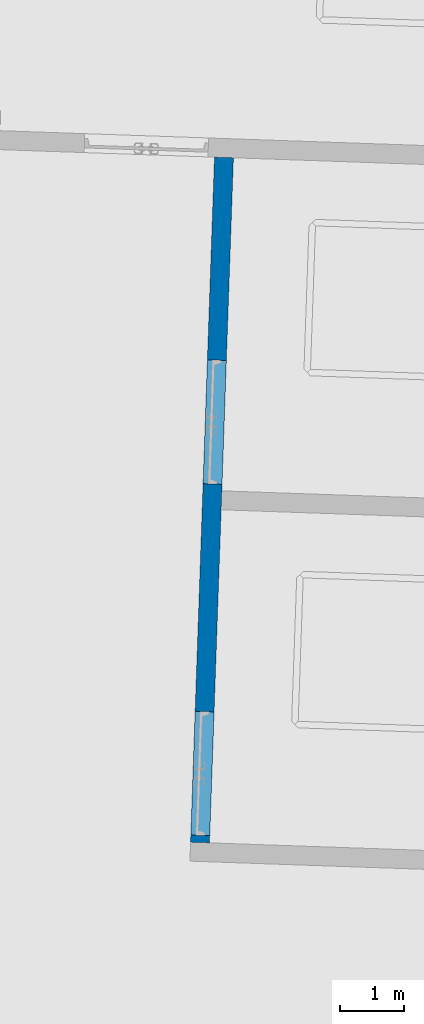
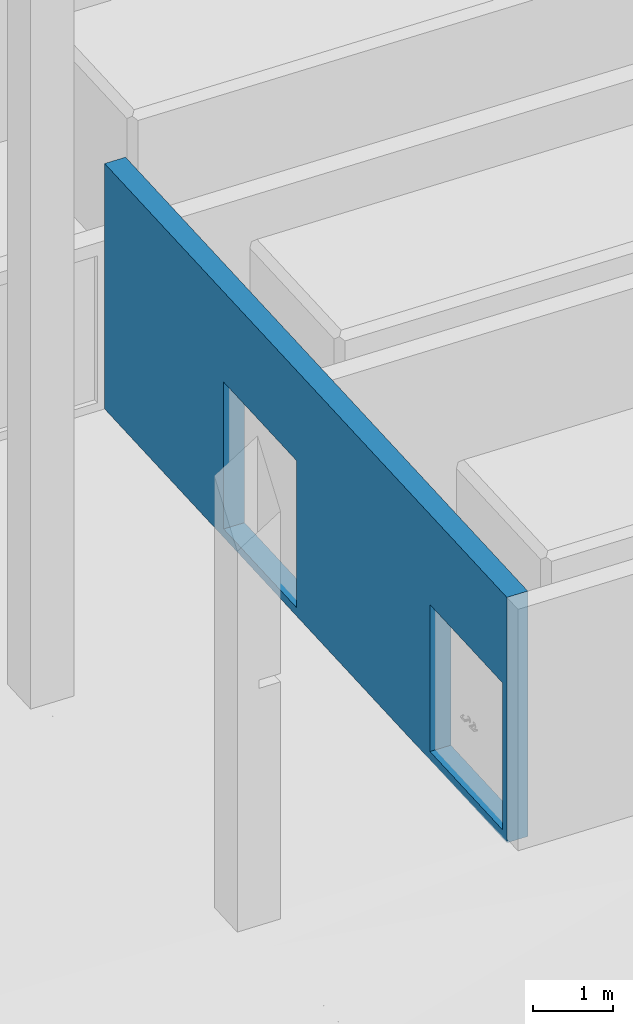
# One storey, part 33 of 44: 1 wall, 2 openings.
"""IFC2X3 building model written with IfcOpenShell, lengths in feet."""

import ifcopenshell
import ifcopenshell.guid

model = None  # the IFC model being written
_history = None  # IfcOwnerHistory: only IFC2X3 demands one
_inside = {}  # id of a spatial element -> (the spatial element, [elements in it])
_under = {}  # id of a project, library or spatial element -> (it, [spatial elements below it])
_declared = {}  # id of a project -> (the project, [libraries it declares])
_typed = {}  # id of a type object -> (the type object, [elements of that type])
_made_of = {}  # id of a material, layer set ... -> (it, [elements and type objects made of it])


def new_model(schema):
    """Start an empty IFC model of exactly this schema.

    Asked for "IFC4X3", IfcOpenShell would pick the latest addendum, in which some entities
    have other attributes; the version numbers below select the first issue.
    IFC2X3 requires an IfcOwnerHistory on every rooted entity: one is made here for all.
    """
    global model, _history
    if schema == "IFC4X3":
        model = ifcopenshell.file(schema_version=(4, 3, 0, 0))
    else:
        model = ifcopenshell.file(schema=schema)
    _inside.clear()
    _under.clear()
    _declared.clear()
    _typed.clear()
    _made_of.clear()
    _history = None
    if model.schema == "IFC2X3":
        org = make("IfcOrganization", Name="unknown")
        user = make(
            "IfcPersonAndOrganization",
            ThePerson=make("IfcPerson", FamilyName="unknown"),
            TheOrganization=org,
        )
        app = make(
            "IfcApplication",
            ApplicationDeveloper=org,
            Version="unknown",
            ApplicationFullName="unknown",
            ApplicationIdentifier="unknown",
        )
        _history = make(
            "IfcOwnerHistory",
            OwningUser=user,
            OwningApplication=app,
            ChangeAction="ADDED",
            CreationDate=0,
        )
    return model


def make(cls, **values):
    """One entity of the class cls with the attributes given. An attribute that is None is left unset."""
    return model.create_entity(
        cls, **{name: value for name, value in values.items() if value is not None}
    )


def entity(cls, *values):
    """Any entity or typed value of the class cls, its attributes in the order of the schema. None: left unset."""
    e = model.create_entity(cls)
    for i, value in enumerate(values):
        if value is not None:
            e[i] = value
    return e


def rooted(cls, **values):
    """An entity with a GlobalId (a new one), such as an element, a storey or a relation."""
    return make(cls, GlobalId=ifcopenshell.guid.new(), OwnerHistory=_history, **values)


def si_unit(unit_type, name, prefix=None):
    """IfcSIUnit, for example si_unit("LENGTHUNIT", "METRE", prefix="MILLI")."""
    return make("IfcSIUnit", UnitType=unit_type, Prefix=prefix, Name=name)


def converted_unit(unit_type, name, factor, base, dimensions=None, offset=None):
    """IfcConversionBasedUnit, such as the inch: factor (a typed value) times the base unit."""
    return make(
        "IfcConversionBasedUnit"
        if offset is None
        else "IfcConversionBasedUnitWithOffset",
        ConversionOffset=offset,
        Dimensions=None
        if dimensions is None
        else entity("IfcDimensionalExponents", *dimensions),
        UnitType=unit_type,
        Name=name,
        ConversionFactor=make(
            "IfcMeasureWithUnit", ValueComponent=factor, UnitComponent=base
        ),
    )


def derived_unit(unit_type, elements):
    """IfcDerivedUnit: a product of units, each with its exponent."""
    return make(
        "IfcDerivedUnit",
        Elements=[
            make("IfcDerivedUnitElement", Unit=unit, Exponent=power)
            for unit, power in elements
        ],
        UnitType=unit_type,
    )


def assignment(units):
    """IfcUnitAssignment: the units of a project."""
    return None if units is None else make("IfcUnitAssignment", Units=units)


def point(xyz):
    """IfcCartesianPoint."""
    return None if xyz is None else make("IfcCartesianPoint", Coordinates=xyz)


def direction(xyz):
    """IfcDirection."""
    return None if xyz is None else make("IfcDirection", DirectionRatios=xyz)


def frame(location, z_axis=None, x_axis=None):
    """IfcAxis2Placement3D, a coordinate frame: its origin and axes. An axis left out is left unset."""
    return make(
        "IfcAxis2Placement3D",
        Location=point(location),
        Axis=direction(z_axis),
        RefDirection=direction(x_axis),
    )


def frame_2d(location, x_axis=None):
    """IfcAxis2Placement2D, a coordinate frame in the plane: its origin and x axis."""
    return make(
        "IfcAxis2Placement2D", Location=point(location), RefDirection=direction(x_axis)
    )


def origin():
    """The frame at (0, 0, 0) with its axes left unset."""
    return frame((0.0, 0.0, 0.0))


def place(relative_to, where):
    """IfcLocalPlacement: puts the frame where relative to a parent placement (None: the world)."""
    return make(
        "IfcLocalPlacement", PlacementRelTo=relative_to, RelativePlacement=where
    )


def context(
    kind, dimensions, precision=None, world=None, true_north=None, identifier=None
):
    """IfcGeometricRepresentationContext, for example the 3D "Model" context."""
    return make(
        "IfcGeometricRepresentationContext",
        ContextIdentifier=identifier,
        ContextType=kind,
        CoordinateSpaceDimension=dimensions,
        Precision=precision,
        WorldCoordinateSystem=world,
        TrueNorth=true_north,
    )


def subcontext(parent, identifier, kind, view, scale=None):
    """IfcGeometricRepresentationSubContext, for example "Body" below "Model"."""
    return make(
        "IfcGeometricRepresentationSubContext",
        ContextIdentifier=identifier,
        ContextType=kind,
        ParentContext=parent,
        TargetScale=scale,
        TargetView=view,
    )


def project(units=None, contexts=None):
    """IfcProject with its units and contexts."""
    return rooted(
        "IfcProject",
        Name="project",
        RepresentationContexts=contexts,
        UnitsInContext=assignment(units),
    )


def spatial(cls, under=None, at=None, **own):
    """A site, building, storey or space (cls), placed at a placement, below another one or the project."""
    s = rooted(cls, ObjectPlacement=at, **own)
    if under is not None:
        _under.setdefault(under.id(), (under, []))[1].append(s)
    return s


def profile(cls, at=None, kind="AREA", **sizes):
    """A parametric profile (cls). Its sizes go by their IFC names, for example OverallWidth=200.0."""
    return make(cls, ProfileType=kind, Position=at, **sizes)


def rectangle(**sizes):
    """IfcRectangleProfileDef."""
    return profile("IfcRectangleProfileDef", **sizes)


def extrude(swept, where, along, depth):
    """IfcExtrudedAreaSolid: the profile swept, set in the frame where, extruded along a direction by depth."""
    return make(
        "IfcExtrudedAreaSolid",
        SweptArea=swept,
        Position=where,
        ExtrudedDirection=direction(along),
        Depth=depth,
    )


def shape(context_of_items, identifier, shape_type, items):
    """IfcShapeRepresentation: the items that make up one representation, for example the "Body"."""
    return make(
        "IfcShapeRepresentation",
        ContextOfItems=context_of_items,
        RepresentationIdentifier=identifier,
        RepresentationType=shape_type,
        Items=items,
    )


def material(Name=None, Category=None):
    """IfcMaterial."""
    return make("IfcMaterial", Name=Name, Category=Category)


def layer(
    of_material, thickness, ventilated=None, Name=None, Category=None, Priority=None
):
    """IfcMaterialLayer: one layer of a wall or slab, of a material (None: an air gap)."""
    return make(
        "IfcMaterialLayer",
        Material=of_material,
        LayerThickness=thickness,
        IsVentilated=ventilated,
        Name=Name,
        Category=Category,
        Priority=Priority,
    )


def layer_set(layers, Name=None):
    """IfcMaterialLayerSet."""
    return make("IfcMaterialLayerSet", MaterialLayers=layers, LayerSetName=Name)


def layer_usage(for_layer_set, set_direction, sense, offset, extent=None):
    """IfcMaterialLayerSetUsage: how a layer set lies in its element."""
    return make(
        "IfcMaterialLayerSetUsage",
        ForLayerSet=for_layer_set,
        LayerSetDirection=set_direction,
        DirectionSense=sense,
        OffsetFromReferenceLine=offset,
        ReferenceExtent=extent,
    )


def made_of(thing, what):
    """Note that an element or type object is made of a material, layer set ...; save() writes the relation."""
    if what is not None:
        _made_of.setdefault(what.id(), (what, []))[1].append(thing)
    return thing


def type_object(cls, material=None, **own):
    """A type object (cls), such as IfcWallType, which elements share."""
    return made_of(rooted(cls, **own), material)


def element(
    cls,
    number,
    at=None,
    inside=None,
    cuts=None,
    type_object=None,
    material=None,
    context=None,
    identifier="Body",
    shape_type=None,
    held_by="IfcProductDefinitionShape",
    body=None,
    shapes=None,
    **own,
):
    """One element of the class cls, such as IfcWall. Its Tag is "e" and its number.

    at: its placement. inside: the storey or other place that contains it. cuts: it is an
    opening in that element (IfcRelVoidsElement). A single representation is given by context,
    identifier, shape_type and body (its items); several are given by shapes. held_by: the class
    of the entity that holds the representations. save() writes the other relations.
    """
    e = rooted(cls, Tag="e%d" % number, ObjectPlacement=at, **own)
    if body is not None:
        shapes = [shape(context, identifier, shape_type, body)]
    if shapes is not None:
        e.Representation = make(held_by, Representations=shapes)
    if inside is not None:
        _inside.setdefault(inside.id(), (inside, []))[1].append(e)
    if cuts is not None:
        rooted(
            "IfcRelVoidsElement", RelatingBuildingElement=cuts, RelatedOpeningElement=e
        )
    if type_object is not None:
        _typed.setdefault(type_object.id(), (type_object, []))[1].append(e)
    return made_of(e, material)


def aggregate(whole, parts):
    """IfcRelAggregates: a whole, such as a stair, and the parts it consists of."""
    return rooted("IfcRelAggregates", RelatingObject=whole, RelatedObjects=parts)


def save(model, path):
    """Write the relations noted so far, then the file.

    IfcRelAggregates (storeys below a building ...), IfcRelContainedInSpatialStructure (elements
    in a storey), IfcRelDefinesByType, IfcRelAssociatesMaterial and IfcRelDeclares: one each for
    every whole, place, type object, material and project.
    """
    for whole, parts in _under.values():
        aggregate(whole, parts)
    for where, things in _inside.values():
        rooted(
            "IfcRelContainedInSpatialStructure",
            RelatedElements=things,
            RelatingStructure=where,
        )
    for kind, things in _typed.values():
        rooted("IfcRelDefinesByType", RelatedObjects=things, RelatingType=kind)
    for what, things in _made_of.values():
        rooted("IfcRelAssociatesMaterial", RelatedObjects=things, RelatingMaterial=what)
    for by, libraries in _declared.values():
        rooted("IfcRelDeclares", RelatingContext=by, RelatedDefinitions=libraries)
    model.write(path)


model = new_model("IFC2X3")

# Units and contexts
model_context = context("Model", 3, precision=0.0001, world=origin(), true_north=direction((0.999390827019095, 0.0348994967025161)))
body_context = subcontext(model_context, "Body", "Model", "MODEL_VIEW")
ifc_project = project(units=[converted_unit("LENGTHUNIT", "FOOT", entity("IfcRatioMeasure", 0.3048), si_unit("LENGTHUNIT", "METRE"), dimensions=[1, 0, 0, 0, 0, 0, 0]), converted_unit("AREAUNIT", "SQUARE FOOT", entity("IfcRatioMeasure", 0.09290304), si_unit("AREAUNIT", "SQUARE_METRE"), dimensions=[2, 0, 0, 0, 0, 0, 0]), converted_unit("VOLUMEUNIT", "CUBIC FOOT", entity("IfcRatioMeasure", 0.028316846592), si_unit("VOLUMEUNIT", "CUBIC_METRE"), dimensions=[3, 0, 0, 0, 0, 0, 0]), converted_unit("PLANEANGLEUNIT", "DEGREE", entity("IfcRatioMeasure", 0.0174532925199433), si_unit("PLANEANGLEUNIT", "RADIAN"), dimensions=[0, 0, 0, 0, 0, 0, 0]), si_unit("MASSUNIT", "GRAM", prefix="KILO"), si_unit("TIMEUNIT", "SECOND"), si_unit("FREQUENCYUNIT", "HERTZ"), si_unit("THERMODYNAMICTEMPERATUREUNIT", "DEGREE_CELSIUS"), derived_unit("THERMALTRANSMITTANCEUNIT", [(si_unit("MASSUNIT", "GRAM", prefix="KILO"), 1), (si_unit("THERMODYNAMICTEMPERATUREUNIT", "KELVIN"), -1), (si_unit("TIMEUNIT", "SECOND"), -3)]), derived_unit("VOLUMETRICFLOWRATEUNIT", [(si_unit("LENGTHUNIT", "METRE"), 3), (si_unit("TIMEUNIT", "SECOND"), -1)]), si_unit("ELECTRICCURRENTUNIT", "AMPERE"), si_unit("ELECTRICVOLTAGEUNIT", "VOLT"), si_unit("POWERUNIT", "WATT"), si_unit("FORCEUNIT", "NEWTON"), si_unit("ILLUMINANCEUNIT", "LUX"), si_unit("LUMINOUSFLUXUNIT", "LUMEN"), si_unit("LUMINOUSINTENSITYUNIT", "CANDELA"), derived_unit("USERDEFINED", [(si_unit("MASSUNIT", "GRAM", prefix="KILO"), -1), (si_unit("LENGTHUNIT", "METRE"), -2), (si_unit("TIMEUNIT", "SECOND"), 3), (si_unit("LUMINOUSFLUXUNIT", "LUMEN"), 1)]), derived_unit("LINEARVELOCITYUNIT", [(si_unit("LENGTHUNIT", "METRE"), 1), (si_unit("TIMEUNIT", "SECOND"), -1)]), si_unit("PRESSUREUNIT", "PASCAL"), derived_unit("USERDEFINED", [(si_unit("LENGTHUNIT", "METRE"), -2), (si_unit("MASSUNIT", "GRAM", prefix="KILO"), 1), (si_unit("TIMEUNIT", "SECOND"), -2)])], contexts=[model_context])

# Site, building, storey
site_placement = place(None, frame((892.518771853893, 322.38689265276, 0.00393700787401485), z_axis=(0.0, 0.0, 1.0), x_axis=(0.0348994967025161, 0.999390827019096, 0.0)))
site = spatial("IfcSite", under=ifc_project, at=site_placement, Name="Default", CompositionType="ELEMENT")
building_placement = place(site_placement, origin())
building = spatial("IfcBuilding", under=site, at=building_placement, CompositionType="ELEMENT")
storey_placement = place(building_placement, frame((0.0, 0.0, 544.75)))
storey = spatial("IfcBuildingStorey", under=building, at=storey_placement, Name="Exist Garage - Ground Level", CompositionType="ELEMENT", Elevation=544.75)

# Wall, openings
ifc_material = material(Name="Masonry - Concrete Masonry Units")
ifc_layer = layer(ifc_material, 0.96875)
ifc_layer_set = layer_set([ifc_layer], Name="Basic Wall:Interior - (C12) 12\" cmu")
ifc_layer_usage = layer_usage(ifc_layer_set, "AXIS2", "NEGATIVE", 0.484375)
wall_type = type_object("IfcWallType", Name="Basic Wall:Interior - (C12) 12\" cmu", PredefinedType="STANDARD", material=ifc_layer_set)
wall_placement = place(storey_placement, frame((38.9272542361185, 279.279578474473, -0.416666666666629), z_axis=(0.0, 0.0, 1.0), x_axis=(-1.0, 0.0, 0.0)))
wall = element("IfcWallStandardCase", 1, at=wall_placement, inside=storey, type_object=wall_type, material=ifc_layer_usage, Name="Basic Wall:Interior - (C12) 12\" cmu", ObjectType="Basic Wall:Interior - (C12) 12\" cmu", context=body_context, shape_type="SweptSolid", body=[
    extrude(rectangle(XDim=35.03125, YDim=0.96875, at=frame_2d((17.515625, 2.27595720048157e-15), x_axis=(-1.0, 0.0))), origin(), (0.0, 0.0, 1.0), 12.25),
])
opening_1_placement = place(wall_placement, frame((34.6666666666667, 0.484374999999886, 0.416666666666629)))
element("IfcOpeningElement", 2, at=opening_1_placement, cuts=wall, Name="Exterior Double Flush:6'-0\" x 7'-0\" Metal_5.75\" x 4\":1", ObjectType="Opening", context=body_context, shape_type="SweptSolid", body=[
    extrude(rectangle(XDim=6.33333333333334, YDim=7.33333333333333, at=frame_2d((3.66666666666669, 3.16666666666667), x_axis=(0.0, 1.0))), frame((0.0, 0.0, 0.0), z_axis=(0.0, -1.0, 0.0), x_axis=(0.0, 0.0, 1.0)), (0.0, 0.0, 1.0), 0.96875),
])
opening_2_placement = place(wall_placement, frame((16.6979166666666, 0.484374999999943, 0.416666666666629)))
element("IfcOpeningElement", 3, at=opening_2_placement, cuts=wall, Name="Exterior Double Flush:6'-0\" x 7'-0\" Metal_5.75\" x 4\":1", ObjectType="Opening", context=body_context, shape_type="SweptSolid", body=[
    extrude(rectangle(XDim=6.33333333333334, YDim=7.33333333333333, at=frame_2d((3.66666666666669, 3.16666666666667), x_axis=(0.0, 1.0))), frame((0.0, 0.0, 0.0), z_axis=(0.0, -1.0, 0.0), x_axis=(0.0, 0.0, 1.0)), (0.0, 0.0, 1.0), 0.96875),
])

save(model, "model.ifc")
